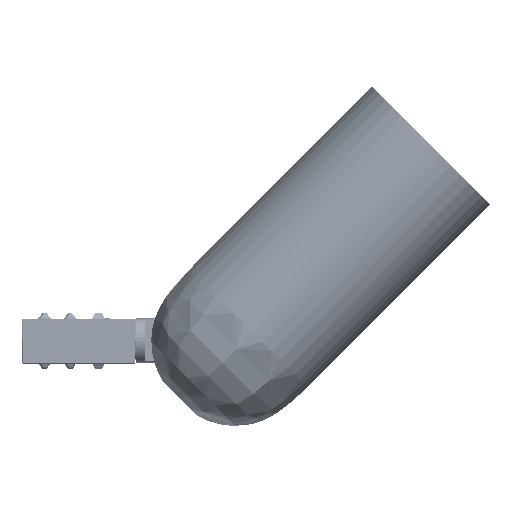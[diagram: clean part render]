
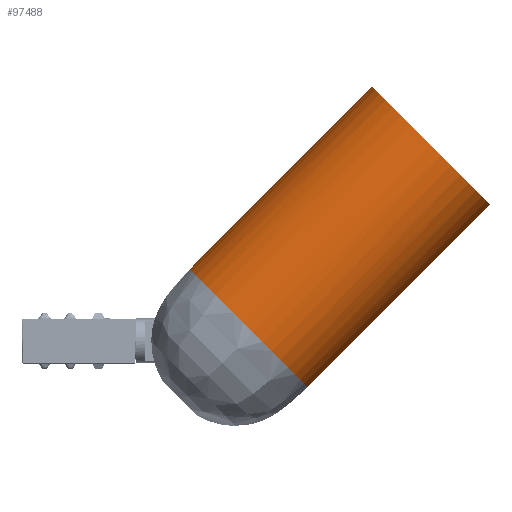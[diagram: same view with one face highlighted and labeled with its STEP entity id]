
A CAD part, left-side view. The second image highlights one B-rep face of the part: STEP entity #97488.
In plain terms, the highlighted cylindrical face has radius 13 mm (diameter 26 mm), a partial arc.
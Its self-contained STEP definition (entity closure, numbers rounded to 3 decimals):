
#17115 = CARTESIAN_POINT ( 'NONE',  ( -13., 15.89, 0. ) ) ;
#27649 = DIRECTION ( 'NONE',  ( 0., -1., 0. ) ) ;
#30509 = CARTESIAN_POINT ( 'NONE',  ( 12.984, 17.393, -0.645 ) ) ;
#39318 = LINE ( 'NONE', #65914, #195908 ) ;
#44234 = ORIENTED_EDGE ( 'NONE', *, *, #78875, .T. ) ;
#49089 = FACE_OUTER_BOUND ( 'NONE', #281667, .T. ) ;
#55570 = CARTESIAN_POINT ( 'NONE',  ( 13., 17.5, 0. ) ) ;
#57117 = CARTESIAN_POINT ( 'NONE',  ( 12.851, 15.89, -1.962 ) ) ;
#57354 = AXIS2_PLACEMENT_3D ( 'NONE', #174280, #100735, #266847 ) ;
#58674 = CARTESIAN_POINT ( 'NONE',  ( 12.946, 17.111, -1.185 ) ) ;
#61824 = EDGE_CURVE ( 'NONE', #263975, #293747, #176526, .T. ) ;
#61858 = EDGE_CURVE ( 'NONE', #197674, #198103, #267764, .T. ) ;
#65914 = CARTESIAN_POINT ( 'NONE',  ( 13., 56., 0. ) ) ;
#74304 = CIRCLE ( 'NONE', #279678, 13. ) ;
#76015 = CARTESIAN_POINT ( 'NONE',  ( 12.87, 16.325, -1.836 ) ) ;
#78875 = EDGE_CURVE ( 'NONE', #213299, #197674, #39318, .T. ) ;
#79138 = CARTESIAN_POINT ( 'NONE',  ( 12.982, 17.383, -0.674 ) ) ;
#79522 = CARTESIAN_POINT ( 'NONE',  ( -13., 56., 0. ) ) ;
#90586 = CARTESIAN_POINT ( 'NONE',  ( -13., 56., 0. ) ) ;
#97488 = ADVANCED_FACE ( 'NONE', ( #49089 ), #149275, .T. ) ;
#100735 = DIRECTION ( 'NONE',  ( 0., 1., 0. ) ) ;
#102627 = CARTESIAN_POINT ( 'NONE',  ( 12.92, 16.895, -1.452 ) ) ;
#104168 = CARTESIAN_POINT ( 'NONE',  ( 12.958, 17.204, -1.048 ) ) ;
#105611 = ORIENTED_EDGE ( 'NONE', *, *, #137965, .F. ) ;
#116018 = DIRECTION ( 'NONE',  ( 0., -1., 0. ) ) ;
#120143 = DIRECTION ( 'NONE',  ( -1., 0., 0. ) ) ;
#120318 = EDGE_CURVE ( 'NONE', #263975, #213299, #74304, .T. ) ;
#124519 = CARTESIAN_POINT ( 'NONE',  ( 12.997, 17.484, -0.299 ) ) ;
#127644 = CARTESIAN_POINT ( 'NONE',  ( 12.986, 17.408, -0.603 ) ) ;
#131275 = CIRCLE ( 'NONE', #166093, 13. ) ;
#137965 = EDGE_CURVE ( 'NONE', #293747, #198103, #131275, .T. ) ;
#149275 = CYLINDRICAL_SURFACE ( 'NONE', #57354, 13. ) ;
#151130 = CARTESIAN_POINT ( 'NONE',  ( 12.942, 17.078, -1.229 ) ) ;
#154235 = CARTESIAN_POINT ( 'NONE',  ( 12.952, 17.16, -1.118 ) ) ;
#166093 = AXIS2_PLACEMENT_3D ( 'NONE', #240757, #27649, #120143 ) ;
#174280 = CARTESIAN_POINT ( 'NONE',  ( 0., -2.8, 0. ) ) ;
#174984 = DIRECTION ( 'NONE',  ( 0., -1., 0. ) ) ;
#176526 = LINE ( 'NONE', #79522, #266918 ) ;
#195908 = VECTOR ( 'NONE', #116018, 1000. ) ;
#197674 = VERTEX_POINT ( 'NONE', #198139 ) ;
#198103 = VERTEX_POINT ( 'NONE', #220528 ) ;
#198104 = CARTESIAN_POINT ( 'NONE',  ( 12.858, 16.114, -1.917 ) ) ;
#198139 = CARTESIAN_POINT ( 'NONE',  ( 13., 17.5, 0. ) ) ;
#199637 = CARTESIAN_POINT ( 'NONE',  ( 12.94, 17.061, -1.25 ) ) ;
#213299 = VERTEX_POINT ( 'NONE', #269955 ) ;
#219324 = DIRECTION ( 'NONE',  ( 0., -1., 0. ) ) ;
#220528 = CARTESIAN_POINT ( 'NONE',  ( 12.851, 15.89, -1.962 ) ) ;
#223227 = CARTESIAN_POINT ( 'NONE',  ( 12.975, 17.334, -0.806 ) ) ;
#224758 = CARTESIAN_POINT ( 'NONE',  ( 13., 17.5, -0.121 ) ) ;
#228230 = ORIENTED_EDGE ( 'NONE', *, *, #61858, .T. ) ;
#240757 = CARTESIAN_POINT ( 'NONE',  ( 0., 15.89, 0. ) ) ;
#241396 = ORIENTED_EDGE ( 'NONE', *, *, #61824, .F. ) ;
#245958 = CARTESIAN_POINT ( 'NONE',  ( 0., 56., 0. ) ) ;
#246709 = CARTESIAN_POINT ( 'NONE',  ( 12.99, 17.438, -0.502 ) ) ;
#249772 = ORIENTED_EDGE ( 'NONE', *, *, #120318, .T. ) ;
#249830 = CARTESIAN_POINT ( 'NONE',  ( 12.902, 16.722, -1.6 ) ) ;
#263975 = VERTEX_POINT ( 'NONE', #90586 ) ;
#266847 = DIRECTION ( 'NONE',  ( 1., 0., 0. ) ) ;
#266918 = VECTOR ( 'NONE', #174984, 1000. ) ;
#267166 = CARTESIAN_POINT ( 'NONE',  ( 12.969, 17.287, -0.906 ) ) ;
#267764 = B_SPLINE_CURVE_WITH_KNOTS ( 'NONE', 3,
 ( #55570, #224758, #124519, #246709, #127644, #30509, #79138, #271804, #223227, #267166, #104168, #154235, #58674, #151130, #199637, #102627, #249830, #76015, #198104, #57117 ),
 .UNSPECIFIED., .F., .F.,
 ( 4, 1, 1, 1, 2, 2, 2, 1, 2, 2, 2, 4 ),
 ( 0., 0.125, 0.187, 0.219, 0.234, 0.25, 0.375, 0.437, 0.469, 0.5, 0.75, 1. ),
 .UNSPECIFIED. ) ;
#269955 = CARTESIAN_POINT ( 'NONE',  ( 13., 56., 0. ) ) ;
#271804 = CARTESIAN_POINT ( 'NONE',  ( 12.982, 17.378, -0.689 ) ) ;
#279678 = AXIS2_PLACEMENT_3D ( 'NONE', #245958, #219324, #291456 ) ;
#281667 = EDGE_LOOP ( 'NONE', ( #228230, #105611, #241396, #249772, #44234 ) ) ;
#291456 = DIRECTION ( 'NONE',  ( -1., 0., 0. ) ) ;
#293747 = VERTEX_POINT ( 'NONE', #17115 ) ;
